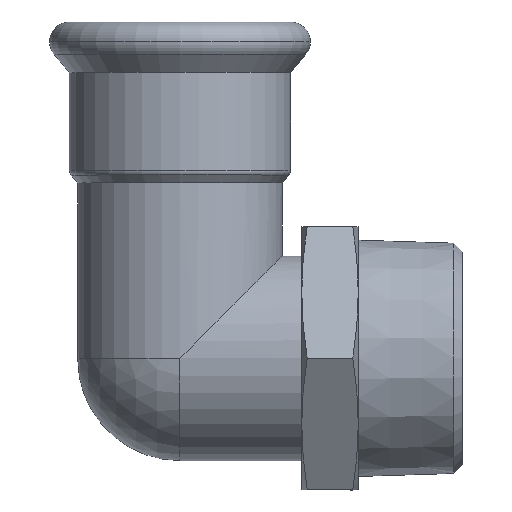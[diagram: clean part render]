
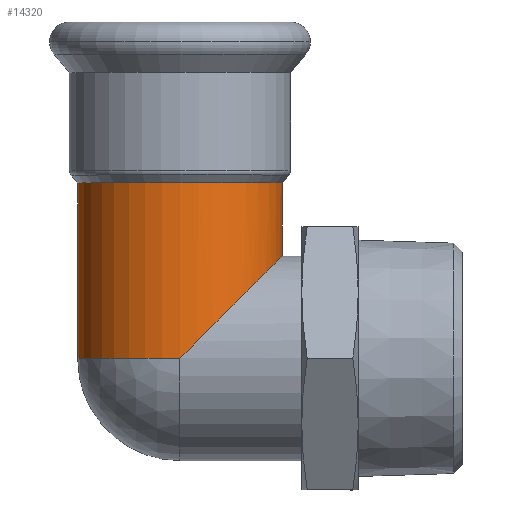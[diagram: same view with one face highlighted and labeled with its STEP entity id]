
A CAD part, top view. The second image highlights one B-rep face of the part: STEP entity #14320.
In plain terms, the highlighted cylindrical face has radius 21 mm (diameter 42 mm), a partial arc.
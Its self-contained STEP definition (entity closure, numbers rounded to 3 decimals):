
#4400=CARTESIAN_POINT('',(-29.154,197.131,0.));
#4410=VERTEX_POINT('',#4400);
#4490=CARTESIAN_POINT('',(-71.154,197.131,
0.));
#4500=VERTEX_POINT('',#4490);
#4530=CARTESIAN_POINT('',(-50.154,197.131,0.));
#4540=DIRECTION('',(0.,1.,0.));
#4550=DIRECTION('',(1.,0.,0.));
#4560=AXIS2_PLACEMENT_3D('',#4530,#4540,#4550);
#4570=CIRCLE('',#4560,21.);
#13910=CARTESIAN_POINT('',(-50.154,197.131,0.));
#13920=DIRECTION('',(0.,1.,0.));
#13930=DIRECTION('',(-1.,0.,0.));
#13940=AXIS2_PLACEMENT_3D('',#13910,#13920,#13930);
#13950=CYLINDRICAL_SURFACE('',#13940,21.);
#13960=CARTESIAN_POINT('',(-71.154,197.131,0.));
#13970=DIRECTION('',(0.,1.,0.));
#13980=VECTOR('',#13970,1.);
#13990=LINE('',#13960,#13980);
#14000=CARTESIAN_POINT('',(-71.154,161.131,
0.));
#14010=VERTEX_POINT('',#14000);
#14020=EDGE_CURVE('',#14010,#4500,#13990,.T.);
#14030=ORIENTED_EDGE('',*,*,#14020,.F.);
#14040=EDGE_CURVE('',#4500,#4410,#4570,.T.);
#14050=ORIENTED_EDGE('',*,*,#14040,.F.);
#14060=CARTESIAN_POINT('',(-29.154,197.131,
0.));
#14070=DIRECTION('',(0.,1.,0.));
#14080=VECTOR('',#14070,1.);
#14090=LINE('',#14060,#14080);
#14100=CARTESIAN_POINT('',(-29.154,182.131,
0.));
#14110=VERTEX_POINT('',#14100);
#14120=EDGE_CURVE('',#14110,#4410,#14090,.T.);
#14130=ORIENTED_EDGE('',*,*,#14120,.T.);
#14140=CARTESIAN_POINT('',(-50.154,161.131,
0.));
#14150=DIRECTION('',(0.707,-0.707,
0.));
#14160=DIRECTION('',(0.707,0.707,
0.));
#14170=AXIS2_PLACEMENT_3D('',#14140,#14150,#14160);
#14180=ELLIPSE('',#14170,29.698,21.);
#14190=CARTESIAN_POINT('',(-50.154,161.131,
21.));
#14200=VERTEX_POINT('',#14190);
#14210=EDGE_CURVE('',#14110,#14200,#14180,.T.);
#14220=ORIENTED_EDGE('',*,*,#14210,.F.);
#14230=CARTESIAN_POINT('',(-50.154,161.131,
0.));
#14240=DIRECTION('',(0.,-1.,0.));
#14250=DIRECTION('',(0.,0.,1.));
#14260=AXIS2_PLACEMENT_3D('',#14230,#14240,#14250);
#14270=CIRCLE('',#14260,21.);
#14280=EDGE_CURVE('',#14200,#14010,#14270,.T.);
#14290=ORIENTED_EDGE('',*,*,#14280,.F.);
#14300=EDGE_LOOP('',(#14290,#14220,#14130,#14050,#14030));
#14310=FACE_OUTER_BOUND('',#14300,.T.);
#14320=ADVANCED_FACE('',(#14310),#13950,.T.);
